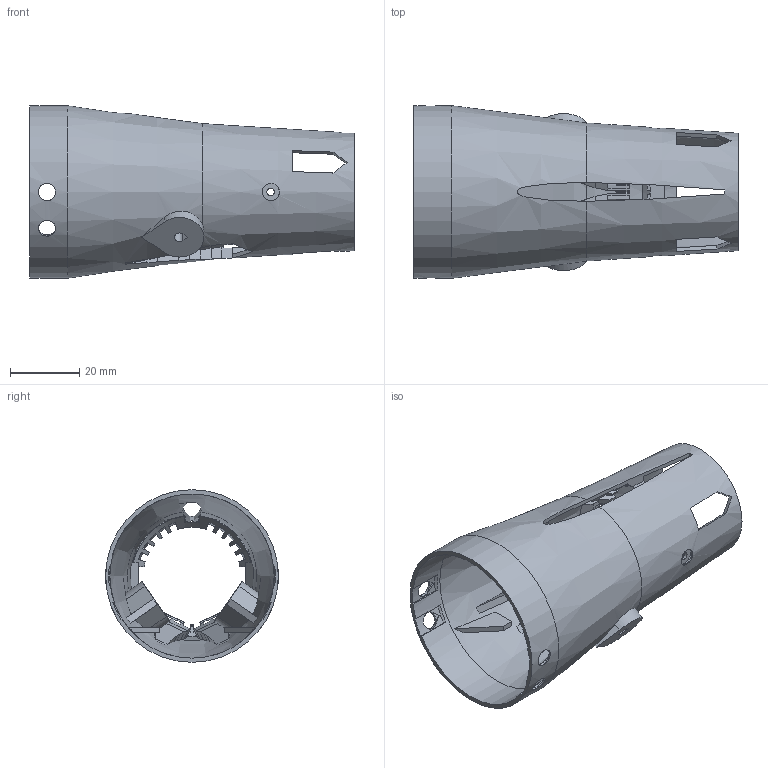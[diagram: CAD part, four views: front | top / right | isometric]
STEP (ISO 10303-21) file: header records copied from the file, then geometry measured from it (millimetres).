
FILE_DESCRIPTION(('SkyG Speed 120B - revision C7B-1 - 2026-10-09','F3-tail-module'),'2;1');
FILE_NAME('F3-tail-module_C7B-1','2026-10-09T15:13:00',('Author'),( 'Open CASCADE'),'Open CASCADE STEP processor 7.9','Open CASCADE 7.9' ,'Unknown');
FILE_SCHEMA(('AUTOMOTIVE_DESIGN { 1 0 10303 214 1 1 1 1 }'));
Length unit declared in the file: millimetre
Products named in the file (5): F3-tail-module C7B-1; Open CASCADE STEP translator 7.9 5.1; Open CASCADE STEP translator 7.9 5.1.1; Open CASCADE STEP translator 7.9 5.1.2; Open CASCADE STEP translator 7.9 5.1.3
Assembly tree (4 placements, depth 3):
  F3-tail-module C7B-1
    Open CASCADE STEP translator 7.9 5.1
      Open CASCADE STEP translator 7.9 5.1.1
      Open CASCADE STEP translator 7.9 5.1.2
      Open CASCADE STEP translator 7.9 5.1.3
Bounding box: 94 x 50 x 50 mm (x, y, z)
Volume: 17919.8 mm3; surface area: 26328.6 mm2
Topology: 1 solids, 3 shells, 450 faces, 1388 edges, 929 vertices
Faces by surface type: plane 309, cylinder 88, bspline 36, cone 17
Full cylindrical faces by diameter (mm): 2.2 x2, 47.6 x1, 50 x1
Entity records: 43606 total; most frequent: CARTESIAN_POINT 19104, DIRECTION 3640, ORIENTED_EDGE 2768, PCURVE 2768, DEFINITIONAL_REPRESENTATION 2768, LINE 1801, VECTOR 1801, B_SPLINE_CURVE_WITH_KNOTS 1668
